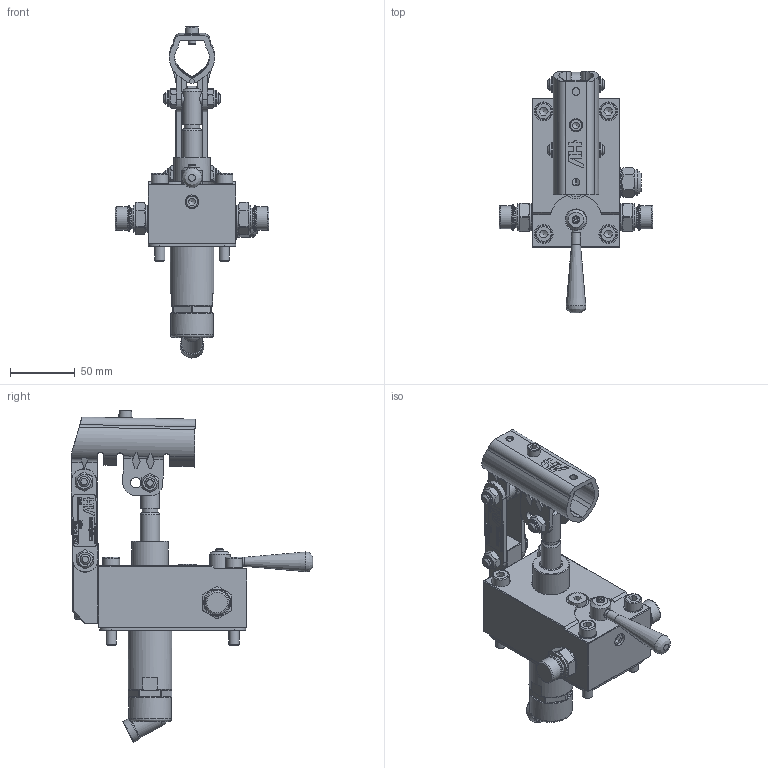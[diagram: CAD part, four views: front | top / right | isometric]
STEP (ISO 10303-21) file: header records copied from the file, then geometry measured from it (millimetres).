
FILE_DESCRIPTION((''),'2;1');
FILE_NAME('G:\HV_HYDRAULIC\AZIENDA_HV_HYDRAULIC\ARCHIVIO_DISEGNI\5_PRODOTTI_FINITI\1_POMPE_MANUALI\6055_PMD_12\6055.5500_PMD_12_byB_(HV)_(NBR)\6055.5500.stp','2024-02-29T16:19:05',('christian.scardovi'),(''),'Autodesk Inventor 2013','Autodesk Inventor 2013','');
FILE_SCHEMA(('AUTOMOTIVE_DESIGN { 1 0 10303 214 1 1 1 1 }'));
Length unit declared in the file: millimetre
Products named in the file (1): 6055.5500
Bounding box: 119 x 186.99 x 256.81 mm (x, y, z)
Volume: 547081.7 mm3; surface area: 117737.6 mm2
Topology: 3 solids, 3 shells, 1398 faces, 3500 edges, 2243 vertices
Faces by surface type: plane 785, cylinder 254, bspline 155, cone 148, torus 52, sphere 4
Full cylindrical faces by diameter (mm): 4 x3, 4.917 x1, 5 x4, 6 x7, 6.5 x2, 7 x2, 8 x15, 8.917 x1, 9 x1, 9.2 x1, 10 x3, 10.376 x1, 10.5 x1, 11.05 x6, 12 x6, 13 x6, 13.2 x1, 14 x3, 14.5 x5, 14.6 x1, 14.95 x2, 15 x3, 15.9 x2, 16 x6, 16.6 x4, 17 x1, 17.5 x1, 18 x6, 19 x2, 20 x6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
Entity records: 42231 total; most frequent: CARTESIAN_POINT 10207, ORIENTED_EDGE 6294, DIRECTION 5775, EDGE_CURVE 3147, VERTEX_POINT 2143, AXIS2_PLACEMENT_3D 1978, VECTOR 1819, LINE 1819
